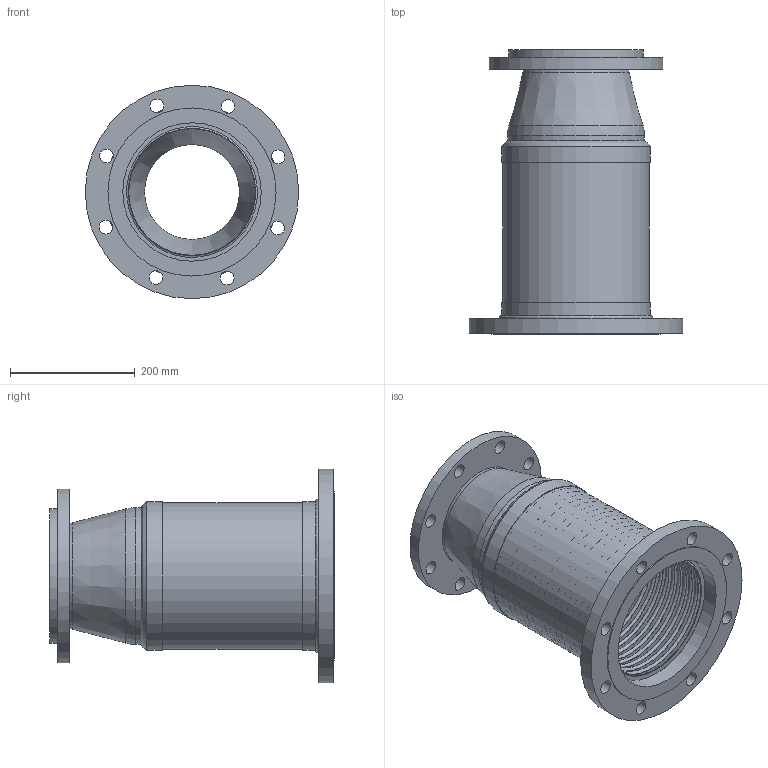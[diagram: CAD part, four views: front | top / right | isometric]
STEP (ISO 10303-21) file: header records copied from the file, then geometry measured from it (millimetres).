
FILE_DESCRIPTION((''),'2;1');
FILE_NAME('C:\2012_Work\Designs\RFFL\RFFL-8x6in.stp','2013-08-20T10:59:00',('KShiels'),(''),'Autodesk Inventor 2012','Autodesk Inventor 2012','');
FILE_SCHEMA(('AUTOMOTIVE_DESIGN { 1 0 10303 214 1 1 1 1 }'));
Length unit declared in the file: inch
Products named in the file (9): RFFL-8x6in; RFFL-8x6in_Welds; A-31003_8in_RFFL-BRAID; A-31003_8in_RFFL-BELLOWS; A-31003_8in_RFFL-BRAID-COLLAR; A-30988_8in-FIXED-FLANGE; A-30989_6in-FLOATING-FLANGE; A-30991_8x6in-REDUCER; A-30990_6in-WASHER
Assembly tree (9 placements, depth 2):
  RFFL-8x6in
    RFFL-8x6in_Welds
    A-31003_8in_RFFL-BRAID
    A-31003_8in_RFFL-BELLOWS
    A-31003_8in_RFFL-BRAID-COLLAR  x2
    A-30988_8in-FIXED-FLANGE
    A-30989_6in-FLOATING-FLANGE
    A-30991_8x6in-REDUCER
    A-30990_6in-WASHER
Bounding box: 342.9 x 457.41 x 342.9 mm (x, y, z)
Volume: 3216796.7 mm3; surface area: 2134120.9 mm2
Topology: 11 solids, 11 shells, 236 faces, 412 edges, 280 vertices
Faces by surface type: plane 104, torus 87, cylinder 36, cone 5, bspline 4
Full cylindrical faces by diameter (mm): 22.225 x16, 152.4 x1, 166.624 x1, 171.45 x3, 203.2 x1, 215.9 x1, 219.558 x2, 222.25 x1, 234.95 x1, 235.966 x3, 238.347 x3, 269.875 x1, 279.4 x1, 342.9 x1
Entity records: 6098 total; most frequent: CARTESIAN_POINT 1635, DIRECTION 976, ORIENTED_EDGE 514, EDGE_LOOP 493, AXIS2_PLACEMENT_3D 488, FACE_BOUND 261, EDGE_CURVE 257, VERTEX_POINT 254
